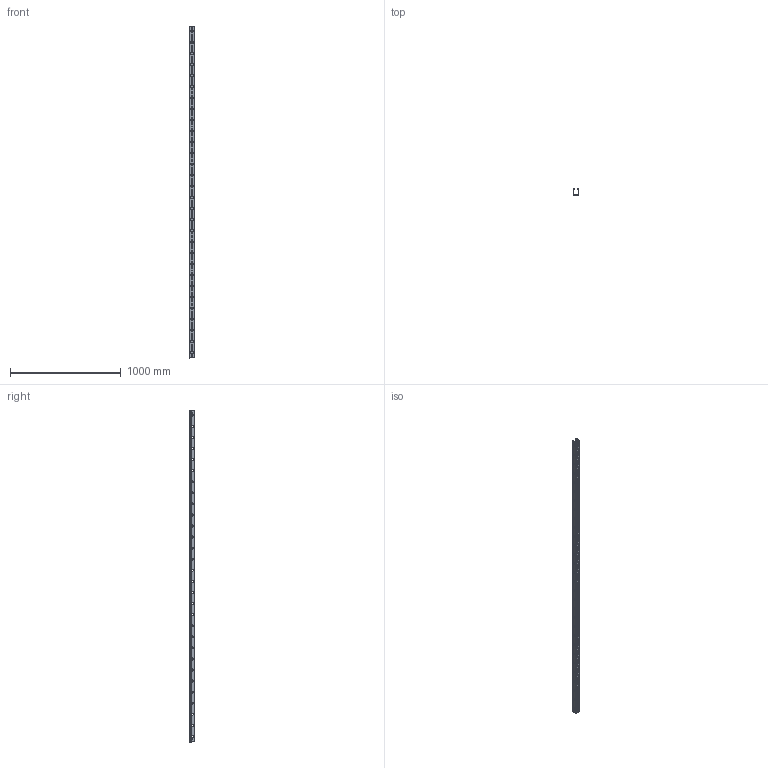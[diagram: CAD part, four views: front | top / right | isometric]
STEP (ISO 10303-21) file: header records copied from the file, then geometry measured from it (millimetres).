
FILE_DESCRIPTION (( 'STEP AP203' ), '1' );
FILE_NAME ('ERE 50x50_perforada.STEP', '2019-07-08T09:09:00', ( '' ), ( '' ), 'SwSTEP 2.0', 'SolidWorks 2019', '' );
FILE_SCHEMA (( 'CONFIG_CONTROL_DESIGN' ));
Length unit declared in the file: millimetre
Products named in the file (1): ERE 50x50_perforada
Bounding box: 50 x 50 x 2997.5 mm (x, y, z)
Surface area: 902647 mm2 (no closed solid volume)
Topology: 0 solids, 5 shells, 1570 faces, 4556 edges, 2980 vertices
Faces by surface type: plane 798, cylinder 740, bspline 16, cone 16
Entity records: 53493 total; most frequent: CARTESIAN_POINT 9743, DIRECTION 9050, ORIENTED_EDGE 9032, EDGE_CURVE 4556, AXIS2_PLACEMENT_3D 3031, VECTOR 2988, LINE 2988, VERTEX_POINT 2980
